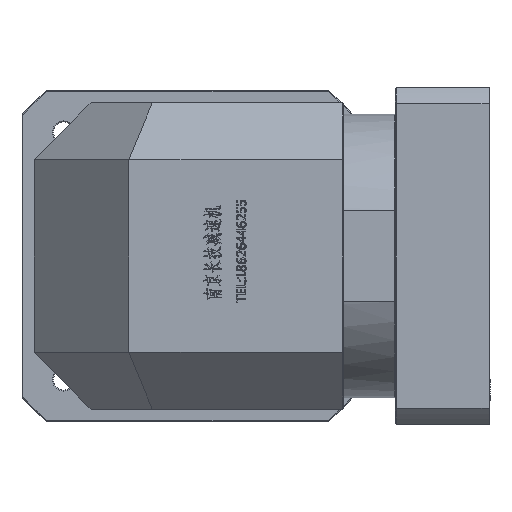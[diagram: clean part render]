
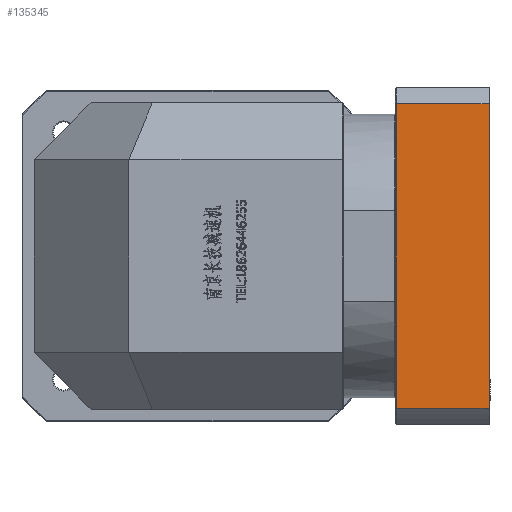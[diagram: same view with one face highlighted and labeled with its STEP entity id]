
A CAD part, left-side view. The second image highlights one B-rep face of the part: STEP entity #135345.
In plain terms, the highlighted planar face has unit normal (-1, 0, 0).
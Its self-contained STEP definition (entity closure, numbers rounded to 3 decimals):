
#7676 = DIRECTION ( 'NONE',  ( 0., 1., 0. ) ) ;
#13491 = VECTOR ( 'NONE', #14813, 1000. ) ;
#14813 = DIRECTION ( 'NONE',  ( 0., -1., 0. ) ) ;
#15629 = DIRECTION ( 'NONE',  ( 0., 0., -1. ) ) ;
#16071 = ORIENTED_EDGE ( 'NONE', *, *, #59035, .F. ) ;
#18544 = AXIS2_PLACEMENT_3D ( 'NONE', #36568, #27270, #74561 ) ;
#23249 = EDGE_CURVE ( 'NONE', #77587, #105082, #52198, .T. ) ;
#24729 = PLANE ( 'NONE',  #18544 ) ;
#27270 = DIRECTION ( 'NONE',  ( 1., 0., 0. ) ) ;
#32089 = FACE_OUTER_BOUND ( 'NONE', #145384, .T. ) ;
#34757 = EDGE_CURVE ( 'NONE', #132513, #77587, #144009, .T. ) ;
#36568 = CARTESIAN_POINT ( 'NONE',  ( -150.015, -235.653, 178.967 ) ) ;
#43202 = CARTESIAN_POINT ( 'NONE',  ( -150.015, 157.152, 187.475 ) ) ;
#50643 = CARTESIAN_POINT ( 'NONE',  ( -150.015, -235.153, 186.967 ) ) ;
#52198 = LINE ( 'NONE', #86267, #13491 ) ;
#58388 = CARTESIAN_POINT ( 'NONE',  ( -150.015, -186.153, 348.459 ) ) ;
#59035 = EDGE_CURVE ( 'NONE', #105082, #82532, #110502, .T. ) ;
#65018 = VECTOR ( 'NONE', #67373, 1000. ) ;
#67373 = DIRECTION ( 'NONE',  ( 0., 0., 1. ) ) ;
#74561 = DIRECTION ( 'NONE',  ( 0., 1., 0. ) ) ;
#77587 = VERTEX_POINT ( 'NONE', #58388 ) ;
#79323 = VECTOR ( 'NONE', #15629, 1000. ) ;
#82532 = VERTEX_POINT ( 'NONE', #114797 ) ;
#85284 = CARTESIAN_POINT ( 'NONE',  ( -150.015, -235.153, 348.459 ) ) ;
#86267 = CARTESIAN_POINT ( 'NONE',  ( -150.015, 157.152, 348.459 ) ) ;
#87391 = ORIENTED_EDGE ( 'NONE', *, *, #118032, .F. ) ;
#101751 = CARTESIAN_POINT ( 'NONE',  ( -150.015, -186.153, 178.967 ) ) ;
#104510 = ORIENTED_EDGE ( 'NONE', *, *, #34757, .F. ) ;
#105082 = VERTEX_POINT ( 'NONE', #85284 ) ;
#110502 = LINE ( 'NONE', #50643, #79323 ) ;
#114797 = CARTESIAN_POINT ( 'NONE',  ( -150.015, -235.153, 187.475 ) ) ;
#118032 = EDGE_CURVE ( 'NONE', #82532, #132513, #118261, .T. ) ;
#118205 = ORIENTED_EDGE ( 'NONE', *, *, #23249, .F. ) ;
#118261 = LINE ( 'NONE', #43202, #142108 ) ;
#131927 = CARTESIAN_POINT ( 'NONE',  ( -150.015, -186.153, 187.475 ) ) ;
#132513 = VERTEX_POINT ( 'NONE', #131927 ) ;
#135345 = ADVANCED_FACE ( 'NONE', ( #32089 ), #24729, .F. ) ;
#142108 = VECTOR ( 'NONE', #7676, 1000. ) ;
#144009 = LINE ( 'NONE', #101751, #65018 ) ;
#145384 = EDGE_LOOP ( 'NONE', ( #118205, #104510, #87391, #16071 ) ) ;
